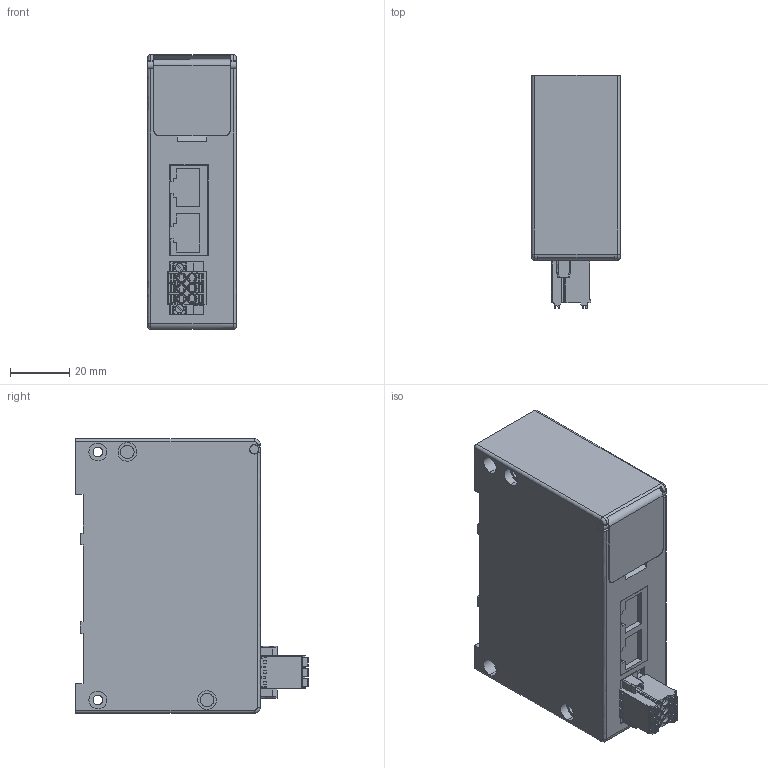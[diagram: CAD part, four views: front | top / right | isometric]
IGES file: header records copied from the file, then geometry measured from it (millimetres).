
Start section: ------------------------------------------------------------------------
Bounding box: 30 x 78.8 x 93 mm (x, y, z)
Volume: 168191.7 mm3; surface area: 25136.4 mm2
Topology: 1 solids, 1 shells, 600 faces, 1583 edges, 1021 vertices
Faces by surface type: bspline 600
